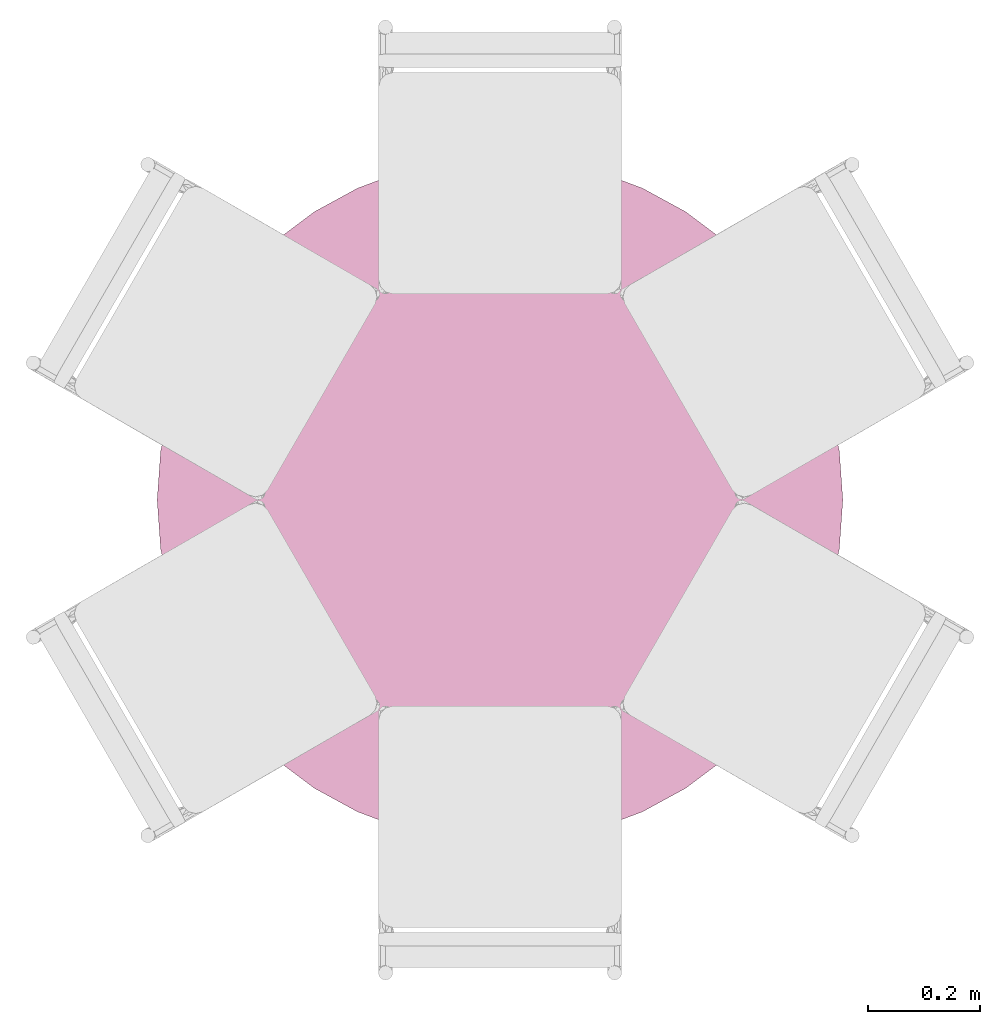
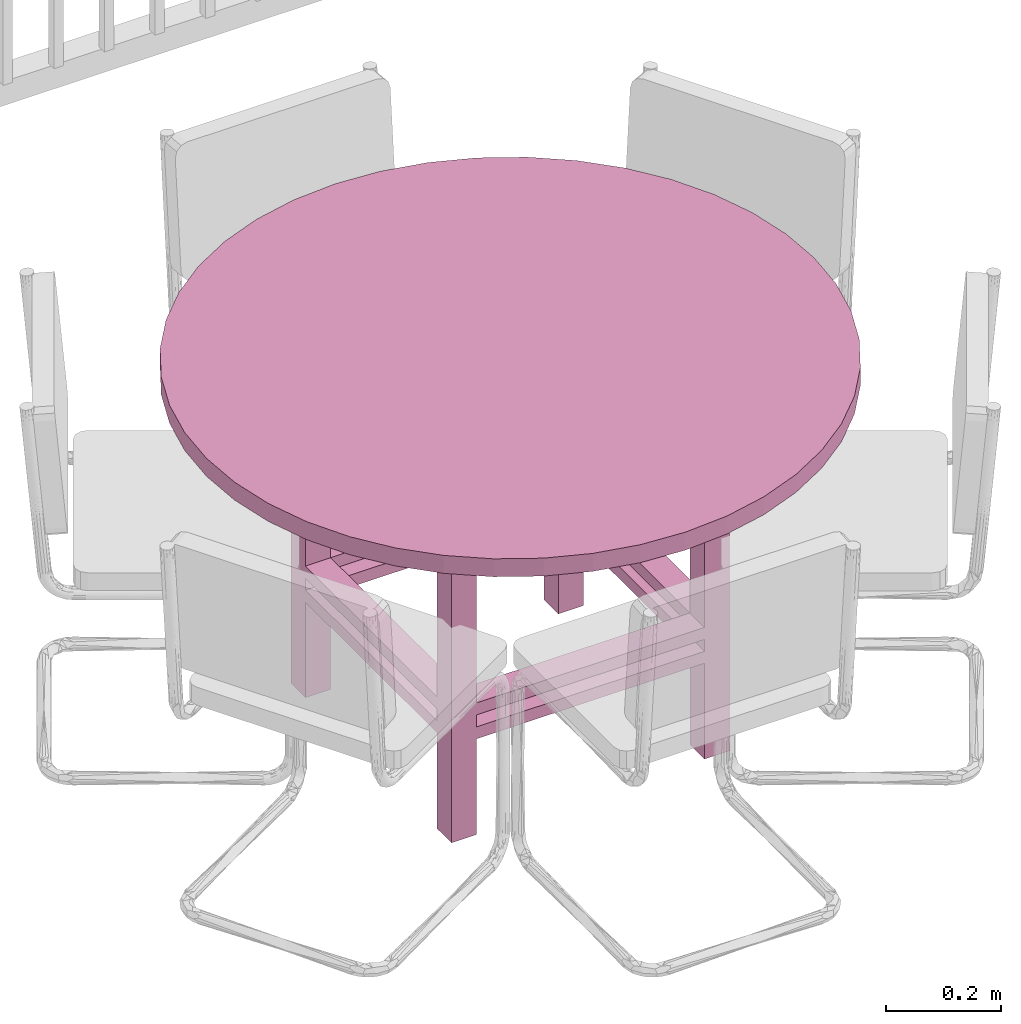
# One storey, part 6 of 8: 1 furnishing.
"""IFC2X3 building model written with IfcOpenShell, lengths in feet."""

from ifc_helpers import new_model, entity, si_unit, converted_unit, derived_unit, direction, frame, origin, place, context, subcontext, project, spatial, faceted_brep, source, transform, mapped, material, material_list, type_object, type_shapes, element, save


model = new_model("IFC2X3")

# Units and contexts
model_context = context("Model", 3, precision=0.0001, world=origin(), true_north=direction((6.12303176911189e-17, 1.0)))
body_context = subcontext(model_context, "Body", "Model", "MODEL_VIEW")
ifc_project = project(units=[converted_unit("LENGTHUNIT", "FOOT", entity("IfcRatioMeasure", 0.3048), si_unit("LENGTHUNIT", "METRE"), dimensions=[1, 0, 0, 0, 0, 0, 0]), converted_unit("AREAUNIT", "SQUARE FOOT", entity("IfcRatioMeasure", 0.09290304), si_unit("AREAUNIT", "SQUARE_METRE"), dimensions=[2, 0, 0, 0, 0, 0, 0]), converted_unit("VOLUMEUNIT", "CUBIC FOOT", entity("IfcRatioMeasure", 0.028316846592), si_unit("VOLUMEUNIT", "CUBIC_METRE"), dimensions=[3, 0, 0, 0, 0, 0, 0]), converted_unit("PLANEANGLEUNIT", "DEGREE", entity("IfcRatioMeasure", 0.0174532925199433), si_unit("PLANEANGLEUNIT", "RADIAN"), dimensions=[0, 0, 0, 0, 0, 0, 0]), si_unit("MASSUNIT", "GRAM", prefix="KILO"), derived_unit("MASSDENSITYUNIT", [(si_unit("MASSUNIT", "GRAM", prefix="KILO"), 1), (si_unit("LENGTHUNIT", "METRE"), -3)]), si_unit("TIMEUNIT", "SECOND"), si_unit("FREQUENCYUNIT", "HERTZ"), si_unit("THERMODYNAMICTEMPERATUREUNIT", "DEGREE_CELSIUS"), derived_unit("THERMALTRANSMITTANCEUNIT", [(si_unit("MASSUNIT", "GRAM", prefix="KILO"), 1), (si_unit("THERMODYNAMICTEMPERATUREUNIT", "KELVIN"), -1), (si_unit("TIMEUNIT", "SECOND"), -3)]), derived_unit("VOLUMETRICFLOWRATEUNIT", [(si_unit("LENGTHUNIT", "METRE"), 3), (si_unit("TIMEUNIT", "SECOND"), -1)]), si_unit("ELECTRICCURRENTUNIT", "AMPERE"), si_unit("ELECTRICVOLTAGEUNIT", "VOLT"), si_unit("POWERUNIT", "WATT"), si_unit("FORCEUNIT", "NEWTON"), si_unit("ILLUMINANCEUNIT", "LUX"), si_unit("LUMINOUSFLUXUNIT", "LUMEN"), si_unit("LUMINOUSINTENSITYUNIT", "CANDELA"), derived_unit("USERDEFINED", [(si_unit("MASSUNIT", "GRAM", prefix="KILO"), -1), (si_unit("LENGTHUNIT", "METRE"), -2), (si_unit("TIMEUNIT", "SECOND"), 3), (si_unit("LUMINOUSFLUXUNIT", "LUMEN"), 1)]), derived_unit("LINEARVELOCITYUNIT", [(si_unit("LENGTHUNIT", "METRE"), 1), (si_unit("TIMEUNIT", "SECOND"), -1)]), si_unit("PRESSUREUNIT", "PASCAL"), derived_unit("USERDEFINED", [(si_unit("LENGTHUNIT", "METRE"), -2), (si_unit("MASSUNIT", "GRAM", prefix="KILO"), 1), (si_unit("TIMEUNIT", "SECOND"), -2)])], contexts=[model_context])

# Site, building, storey
site_placement = place(None, origin())
site = spatial("IfcSite", under=ifc_project, at=site_placement, Name="表面", CompositionType="ELEMENT")
building_placement = place(site_placement, origin())
building = spatial("IfcBuilding", under=site, at=building_placement, CompositionType="ELEMENT")
storey_placement = place(building_placement, frame((0.0, 0.0, 20.0)))
storey = spatial("IfcBuildingStorey", under=building, at=storey_placement, Name="Sun Deck", CompositionType="ELEMENT", Elevation=19.9999999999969)

# Furnishing
ifc_material_1 = material(Name="Wood - Pine")
ifc_material_2 = material(Name="Laminate - Linen, Matte")
ifc_material_list_1 = material_list([ifc_material_1, ifc_material_2])
ifc_material_list_2 = material_list([ifc_material_1, ifc_material_2])
furniture_type = type_object("IfcFurnitureType", Name="36\" Diameter", material=ifc_material_list_2)
shared_shape = source(origin(), body_context, "Body", "Brep", [
    faceted_brep([(1.09016393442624, 0.143442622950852, 0.916666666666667), (1.09016393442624, -1.35655737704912, 0.916666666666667), (1.25683060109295, -1.35655737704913, 0.916666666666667), (1.25683060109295, 0.143442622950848, 0.916666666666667), (-0.40983606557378, 0.143442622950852, 0.833333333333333), (-0.40983606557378, -1.35655737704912, 0.833333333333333), (-0.576502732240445, -1.3565573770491, 0.833333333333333), (-0.576502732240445, 0.143442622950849, 0.833333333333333), (-0.409836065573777, 0.310109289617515, 0.833333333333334), (-0.409836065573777, 0.310109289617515, 0.75), (1.09016393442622, 0.310109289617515, 0.75), (1.09016393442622, 0.310109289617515, 0.833333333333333), (-0.576502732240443, 0.310109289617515, 2.125), (-0.409836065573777, 0.310109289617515, 2.125), (-0.409836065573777, 0.310109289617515, 0.916666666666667), (1.09016393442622, 0.310109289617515, 0.916666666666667), (1.09016393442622, 0.310109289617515, 2.125), (1.25683060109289, 0.310109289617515, 2.125), (1.25683060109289, 0.310109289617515, 0.0), (1.09016393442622, 0.310109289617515, 0.0), (1.09016393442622, 0.310109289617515, 0.666666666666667), (-0.409836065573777, 0.310109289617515, 0.666666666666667), (-0.409836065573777, 0.310109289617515, 0.0), (-0.576502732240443, 0.310109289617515, 0.0), (-0.576502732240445, -1.3565573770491, 0.75), (-0.576502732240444, 0.143442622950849, 0.75), (-0.576502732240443, 0.143442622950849, 2.125), (-0.576502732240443, 0.143442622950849, 0.0), (-0.576502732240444, 0.143442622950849, 0.666666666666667), (-0.576502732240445, -1.3565573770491, 0.666666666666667), (-0.576502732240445, -1.3565573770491, 0.0), (-0.57650273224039, -1.52322404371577, 0.0), (-0.57650273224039, -1.52322404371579, 2.125), (-0.57650273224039, -1.3565573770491, 2.125), (-0.576502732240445, -1.3565573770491, 0.916666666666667), (-0.576502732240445, 0.143442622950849, 0.916666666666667), (1.09016393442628, -1.52322404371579, 0.833333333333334), (1.09016393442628, -1.52322404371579, 0.75), (-0.409836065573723, -1.52322404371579, 0.75), (-0.409836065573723, -1.52322404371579, 0.833333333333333), (1.25683060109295, -1.52322404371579, 2.125), (1.09016393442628, -1.52322404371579, 2.125), (1.09016393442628, -1.52322404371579, 0.916666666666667), (-0.409836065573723, -1.52322404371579, 0.916666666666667), (-0.409836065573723, -1.52322404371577, 2.125), (-0.409836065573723, -1.52322404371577, 0.0), (-0.409836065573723, -1.52322404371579, 0.666666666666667), (1.09016393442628, -1.52322404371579, 0.666666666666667), (1.09016393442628, -1.52322404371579, 0.0), (1.25683060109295, -1.52322404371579, 0.0), (1.25683060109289, 0.143442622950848, 2.125), (1.25683060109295, -1.35655737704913, 2.125), (1.25683060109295, -1.35655737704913, 0.0), (1.25683060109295, -1.35655737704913, 0.666666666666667), (1.25683060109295, 0.143442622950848, 0.666666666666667), (1.25683060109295, 0.143442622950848, 0.0), (1.25683060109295, 0.143442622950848, 0.833333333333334), (1.25683060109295, 0.143442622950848, 0.75), (1.25683060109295, -1.35655737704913, 0.75), (1.25683060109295, -1.35655737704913, 0.833333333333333), (1.09016393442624, 0.143442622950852, 0.833333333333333), (1.09016393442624, -1.35655737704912, 0.833333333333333), (-0.40983606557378, -1.35655737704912, 0.916666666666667), (-0.40983606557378, 0.143442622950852, 0.916666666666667), (1.09016393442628, -1.35655737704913, 2.125), (-0.409836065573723, -1.3565573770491, 0.0), (-0.409836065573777, 0.143442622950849, 2.125), (1.09016393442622, 0.143442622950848, 2.125), (-0.409836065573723, -1.3565573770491, 2.125), (1.09016393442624, 0.143442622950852, 0.75), (1.09016393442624, -1.35655737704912, 0.75), (-0.40983606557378, 0.143442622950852, 0.666666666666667), (-0.40983606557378, -1.35655737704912, 0.666666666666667), (1.09016393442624, 0.143442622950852, 0.666666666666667), (1.09016393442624, -1.35655737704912, 0.666666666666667), (-0.40983606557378, -1.35655737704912, 0.75), (-0.40983606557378, 0.143442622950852, 0.75), (1.09016393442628, -1.35655737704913, 0.0), (1.09016393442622, 0.143442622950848, 0.0), (-0.409836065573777, 0.143442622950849, 0.0)], [[[0, 1, 2, 3]], [[4, 5, 6, 7]], [[8, 9, 10, 11], [12, 13, 14, 15, 16, 17, 18, 19, 20, 21, 22, 23]], [[6, 24, 25, 7], [26, 12, 23, 27, 28, 29, 30, 31, 32, 33, 34, 35]], [[36, 37, 38, 39], [40, 41, 42, 43, 44, 32, 31, 45, 46, 47, 48, 49]], [[18, 17, 50, 3, 2, 51, 40, 49, 52, 53, 54, 55], [56, 57, 58, 59]], [[1, 0, 60, 61]], [[62, 1, 61, 5]], [[63, 62, 5, 4]], [[0, 63, 4, 60]], [[41, 40, 51, 64]], [[45, 31, 30, 65]], [[66, 26, 35, 63]], [[13, 66, 63, 14]], [[67, 16, 15, 0]], [[50, 67, 0, 3]], [[64, 51, 2, 1]], [[41, 64, 1, 42]], [[68, 44, 43, 62]], [[33, 68, 62, 34]], [[69, 70, 58, 57]], [[71, 72, 29, 28]], [[70, 69, 73, 74]], [[75, 70, 74, 72]], [[76, 75, 72, 71]], [[69, 76, 71, 73]], [[72, 74, 47, 46]], [[73, 71, 21, 20]], [[74, 73, 54, 53]], [[70, 75, 38, 37]], [[75, 76, 25, 24]], [[76, 69, 10, 9]], [[6, 5, 75, 24]], [[65, 30, 29, 72]], [[5, 39, 38, 75]], [[45, 65, 72, 46]], [[36, 61, 70, 37]], [[77, 48, 47, 74]], [[61, 59, 58, 70]], [[52, 77, 74, 53]], [[56, 60, 69, 57]], [[78, 55, 54, 73]], [[60, 11, 10, 69]], [[19, 78, 73, 20]], [[8, 4, 76, 9]], [[79, 22, 21, 71]], [[4, 7, 25, 76]], [[27, 79, 71, 28]], [[22, 79, 27, 23]], [[48, 77, 52, 49]], [[19, 18, 55, 78]], [[16, 67, 50, 17]], [[44, 68, 33, 32]], [[13, 12, 26, 66]], [[5, 61, 36, 39]], [[60, 4, 8, 11]], [[61, 60, 56, 59]], [[1, 62, 43, 42]], [[62, 63, 35, 34]], [[63, 0, 15, 14]]], outer=[[True], [True], [False, True], [False, True], [False, True], [True, False], [True], [True], [True], [True], [True], [True], [True], [True], [True], [True], [True], [True], [True], [True], [True], [True], [True], [True], [True], [True], [True], [True], [True], [True], [True], [True], [True], [True], [True], [True], [True], [True], [True], [True], [True], [True], [True], [True], [True], [True], [True], [True], [True], [True], [True], [True], [True], [True], [True], [True], [True], [True], [True], [True]]),
    faceted_brep([(1.34016393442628, 0.393442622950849, 2.375), (-0.659836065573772, 0.393442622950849, 2.375), (-0.659836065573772, -1.6065573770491, 2.375), (1.34016393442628, -1.6065573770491, 2.375), (1.25683060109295, 0.310109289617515, 2.375), (1.25683060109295, -1.52322404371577, 2.375), (-0.576502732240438, -1.52322404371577, 2.375), (-0.576502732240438, 0.310109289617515, 2.375), (1.34016393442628, 0.393442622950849, 2.125), (1.34016393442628, -1.6065573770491, 2.125), (-0.659836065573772, -1.6065573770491, 2.125), (-0.659836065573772, 0.393442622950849, 2.125), (1.25683060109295, 0.310109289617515, 2.125), (-0.576502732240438, 0.310109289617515, 2.125), (-0.576502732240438, -1.52322404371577, 2.125), (1.25683060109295, -1.52322404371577, 2.125)], [[[0, 1, 2, 3], [4, 5, 6, 7]], [[8, 9, 10, 11], [12, 13, 14, 15]], [[1, 0, 8, 11]], [[2, 1, 11, 10]], [[3, 2, 10, 9]], [[0, 3, 9, 8]], [[5, 4, 12, 15]], [[6, 5, 15, 14]], [[7, 6, 14, 13]], [[4, 7, 13, 12]]]),
    faceted_brep([(2.25914988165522, -1.17002249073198, 2.37499999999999), (2.15942792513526, -1.43738740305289, 2.37499999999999), (2.02267100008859, -1.68783901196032, 2.37499999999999), (1.85166308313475, -1.91627884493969, 2.37499999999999), (1.6498854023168, -2.11805652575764, 2.37499999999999), (1.42144556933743, -2.28906444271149, 2.37499999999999), (1.17099396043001, -2.42582136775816, 2.375), (0.903629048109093, -2.52554332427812, 2.375), (0.624793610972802, -2.586200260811, 2.375), (0.340163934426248, -2.60655737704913, 2.375), (0.055534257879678, -2.586200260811, 2.375), (-0.223301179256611, -2.52554332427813, 2.375), (-0.490666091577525, -2.42582136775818, 2.375), (-0.741117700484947, -2.2890644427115, 2.375), (-0.969557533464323, -2.11805652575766, 2.375), (-1.17133521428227, -1.91627884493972, 2.375), (-1.34234313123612, -1.68783901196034, 2.375), (-1.47910005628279, -1.43738740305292, 2.375), (-1.57882201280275, -1.17002249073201, 2.375), (-1.63947894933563, -0.89118705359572, 2.375), (-1.65983606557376, -0.606557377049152, 2.375), (-1.63947894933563, -0.32192770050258, 2.375), (-1.57882201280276, -0.0430922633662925, 2.375), (-1.47910005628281, 0.224272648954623, 2.375), (-1.34234313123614, 0.474724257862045, 2.375), (-1.17133521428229, 0.703164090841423, 2.375), (-0.969557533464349, 0.90494177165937, 2.375), (-0.741117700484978, 1.07594968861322, 2.375), (-0.490666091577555, 1.21270661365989, 2.375), (-0.223301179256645, 1.31242857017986, 2.375), (0.0555342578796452, 1.37308550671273, 2.375), (0.340163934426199, 1.39344262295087, 2.375), (0.62479361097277, 1.37308550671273, 2.375), (0.903629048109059, 1.31242857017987, 2.375), (1.17099396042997, 1.21270661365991, 2.375), (1.4214455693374, 1.07594968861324, 2.37499999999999), (1.64988540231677, 0.904941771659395, 2.37499999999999), (1.85166308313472, 0.70316409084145, 2.37499999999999), (2.02267100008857, 0.474724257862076, 2.37499999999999), (2.15942792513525, 0.224272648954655, 2.37499999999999), (2.25914988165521, -0.0430922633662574, 2.37499999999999), (2.31980681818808, -0.321927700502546, 2.37499999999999), (2.34016393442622, -0.606557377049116, 2.37499999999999), (2.31980681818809, -0.891187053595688, 2.37499999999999), (2.31980681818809, -0.891187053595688, 2.49999999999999), (2.34016393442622, -0.606557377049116, 2.49999999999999), (2.31980681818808, -0.321927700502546, 2.49999999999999), (2.25914988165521, -0.0430922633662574, 2.49999999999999), (2.15942792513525, 0.224272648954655, 2.49999999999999), (2.02267100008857, 0.474724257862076, 2.49999999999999), (1.85166308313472, 0.70316409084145, 2.49999999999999), (1.64988540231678, 0.904941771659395, 2.49999999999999), (1.4214455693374, 1.07594968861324, 2.49999999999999), (1.17099396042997, 1.21270661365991, 2.5), (0.90362904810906, 1.31242857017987, 2.5), (0.62479361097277, 1.37308550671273, 2.5), (0.340163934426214, 1.39344262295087, 2.5), (0.0555342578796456, 1.37308550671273, 2.5), (-0.223301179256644, 1.31242857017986, 2.5), (-0.490666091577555, 1.21270661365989, 2.5), (-0.741117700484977, 1.07594968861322, 2.5), (-0.969557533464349, 0.90494177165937, 2.5), (-1.17133521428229, 0.703164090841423, 2.5), (-1.34234313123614, 0.474724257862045, 2.5), (-1.47910005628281, 0.224272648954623, 2.5), (-1.57882201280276, -0.0430922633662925, 2.5), (-1.63947894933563, -0.32192770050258, 2.5), (-1.65983606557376, -0.606557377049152, 2.5), (-1.63947894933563, -0.89118705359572, 2.5), (-1.57882201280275, -1.17002249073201, 2.5), (-1.47910005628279, -1.43738740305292, 2.5), (-1.34234313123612, -1.68783901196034, 2.5), (-1.17133521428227, -1.91627884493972, 2.5), (-0.969557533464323, -2.11805652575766, 2.5), (-0.741117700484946, -2.2890644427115, 2.5), (-0.490666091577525, -2.42582136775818, 2.5), (-0.223301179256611, -2.52554332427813, 2.5), (0.0555342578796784, -2.586200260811, 2.5), (0.340163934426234, -2.60655737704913, 2.5), (0.624793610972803, -2.586200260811, 2.5), (0.903629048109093, -2.52554332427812, 2.5), (1.17099396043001, -2.42582136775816, 2.5), (1.42144556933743, -2.28906444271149, 2.49999999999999), (1.6498854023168, -2.11805652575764, 2.49999999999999), (1.85166308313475, -1.91627884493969, 2.49999999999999), (2.02267100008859, -1.68783901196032, 2.49999999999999), (2.15942792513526, -1.43738740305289, 2.49999999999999), (2.25914988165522, -1.17002249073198, 2.49999999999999)], [[[0, 1, 2, 3, 4, 5, 6, 7, 8, 9, 10, 11, 12, 13, 14, 15, 16, 17, 18, 19, 20, 21, 22, 23, 24, 25, 26, 27, 28, 29, 30, 31, 32, 33, 34, 35, 36, 37, 38, 39, 40, 41, 42, 43]], [[44, 45, 46, 47, 48, 49, 50, 51, 52, 53, 54, 55, 56, 57, 58, 59, 60, 61, 62, 63, 64, 65, 66, 67, 68, 69, 70, 71, 72, 73, 74, 75, 76, 77, 78, 79, 80, 81, 82, 83, 84, 85, 86, 87]], [[12, 75, 74, 13]], [[10, 77, 76, 11]], [[75, 12, 11, 76]], [[13, 74, 73, 14]], [[17, 70, 69, 18]], [[18, 69, 68, 19]], [[15, 72, 71, 16]], [[16, 71, 70, 17]], [[72, 15, 14, 73]], [[19, 68, 67, 20]], [[77, 10, 9, 78]], [[23, 64, 63, 24]], [[21, 66, 65, 22]], [[64, 23, 22, 65]], [[24, 63, 62, 25]], [[28, 59, 58, 29]], [[29, 58, 57, 30]], [[26, 61, 60, 27]], [[27, 60, 59, 28]], [[61, 26, 25, 62]], [[30, 57, 56, 31]], [[66, 21, 20, 67]], [[34, 53, 52, 35]], [[33, 54, 53, 34]], [[35, 52, 51, 36]], [[39, 48, 47, 40]], [[40, 47, 46, 41]], [[37, 50, 49, 38]], [[38, 49, 48, 39]], [[50, 37, 36, 51]], [[41, 46, 45, 42]], [[32, 55, 54, 33]], [[32, 31, 56, 55]], [[1, 86, 85, 2]], [[43, 44, 87, 0]], [[86, 1, 0, 87]], [[2, 85, 84, 3]], [[6, 81, 80, 7]], [[7, 80, 79, 8]], [[4, 83, 82, 5]], [[5, 82, 81, 6]], [[83, 4, 3, 84]], [[8, 79, 78, 9]], [[44, 43, 42, 45]]]),
])
type_shapes(furniture_type, [shared_shape])
furnishing_placement = place(storey_placement, frame((-24.7084103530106, 10.5389510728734, 0.0)))
element("IfcFurnishingElement", 1, at=furnishing_placement, inside=storey, type_object=furniture_type, material=ifc_material_list_1, Name="Table-Dining Round w Chairs:36\" Diameter", ObjectType="36\" Diameter", context=body_context, shape_type="MappedRepresentation", body=[
    mapped(shared_shape, transform((0.0, 0.0, 0.0), scale=1.0)),
])

save(model, "model.ifc")
